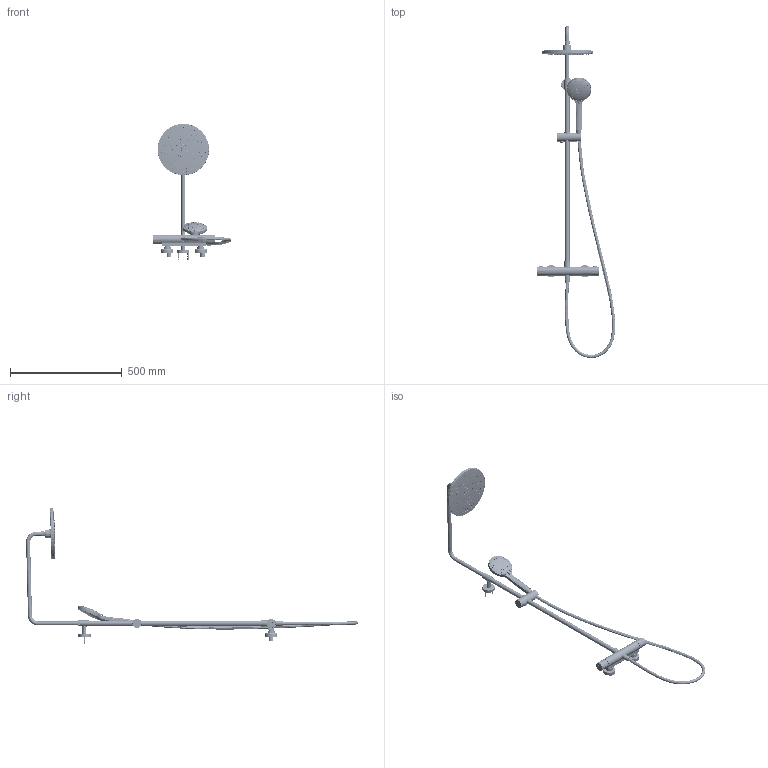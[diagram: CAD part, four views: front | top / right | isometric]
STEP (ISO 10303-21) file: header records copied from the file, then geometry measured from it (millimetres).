
FILE_DESCRIPTION((''),'2;1');
FILE_NAME('B36263_ASM','2022-08-23T08:46:54',('solexrd121'),(''),'CREO PARAMETRIC BY PTC INC, 2021023','CREO PARAMETRIC BY PTC INC, 2021023','');
FILE_SCHEMA(('CONFIG_CONTROL_DESIGN','GEOMETRIC_VALIDATION_PROPERTIES_MIM'));
Products named in the file (67): B36260-001_3; B36260-005_3; B36500-003_3; B30270-003_3; B36270-006_3; B36401-006_3; B30234-020_3; B36250-005_AF0_3_1; B36250-005_AF0_3_2; B36250-005_AF0_3_ASM; B35640-B21_1; B30350-012_3; B30107-001_3; B30107-B02_2; B36330-010_3; 40001122_1; C01071-B20_11; B36261-B05_2; B36401-007_3; C00010-004_3; B30124-012_20; C01180-001_3; M50020-035_3_1; M50020-035_3_2; M50020-035_3_3; M50020-035_3_4; M50020-035_3_5; M50020-035_3_6; M50020-035_3_7; M50020-035_3_8; M50020-035_3_ASM; B30124-013_24; B36263-001_3; B36263-002_AF0_3; P43300-001_3; P43300-004_1; P43300-002_1; P43300-005_4; 40000443_1; P10100-003_4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
Assembly tree (100 placements, depth 5):
  B36263_ASM
    80B36263-XXX-001_ASM_13_ASM
      B36260-001_3
      B36260-005_3
      B36500-003_3  x2
      B30270-003_3  x2
      B36270-006_3  x2
      B36401-006_3
      B30234-020_3  x2
      B36250-005_AF0_3_ASM
        B36250-005_AF0_3_1
        B36250-005_AF0_3_2
      B35640-B21_1  x2
      B30350-012_3  x2
      B30107-001_3  x2
      B30107-B02_2  x2
      B36330-010_3  x2
      40001122_1  x2
      C01071-B20_11
      B36261-B05_2
      B36401-007_3
      C00010-004_3
      B30124-012_20
      C01180-001_3
      M50020-035_3_ASM
        M50020-035_3_1
        M50020-035_3_2
        M50020-035_3_3
        M50020-035_3_4
        M50020-035_3_5
        M50020-035_3_6
        M50020-035_3_7
        M50020-035_3_8
      B30124-013_24
      B36263-001_3
      B36263-002_AF0_3
      P43300_ASM_3_ASM
        P43300-001_3
        P43300-004_1
        P43300-002_1
        P43300-005_4
        40000443_1
        P10100-003_4
        P10202-024_4
        K44600-010_1  x21
        P67900-015_1
        P11600-008_1
      C05121-008_3_ASM
        C05121-008_3_1
        C05121-008_3_2
      C05121-007_7
      C05121-006_7
      30100652_3
      30100036_1  x2
      C05015-032_3  x2
      H21304_8
    P80300_ASM
      P80300-001
      P80300-010_ASM
        40000933
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Bounding box: 349.81 x 1483.59 x 610.17 mm (x, y, z)
Volume: 856309.7 mm3; surface area: 905495.6 mm2
Topology: 86 solids, 87 shells, 14221 faces, 36489 edges, 22878 vertices
Faces by surface type: bspline 3917, cone 3113, torus 2779, cylinder 2126, plane 1855, sphere 259, revolution 114, extrusion 58
Entity records: 831945 total; most frequent: CARTESIAN_POINT 482074, ORIENTED_EDGE 62390, DIRECTION 51012, EDGE_CURVE 31200, PRESENTATION_STYLE_ASSIGNMENT 23651, STYLED_ITEM 23331, CURVE_STYLE 23285, AXIS2_PLACEMENT_3D 22525
